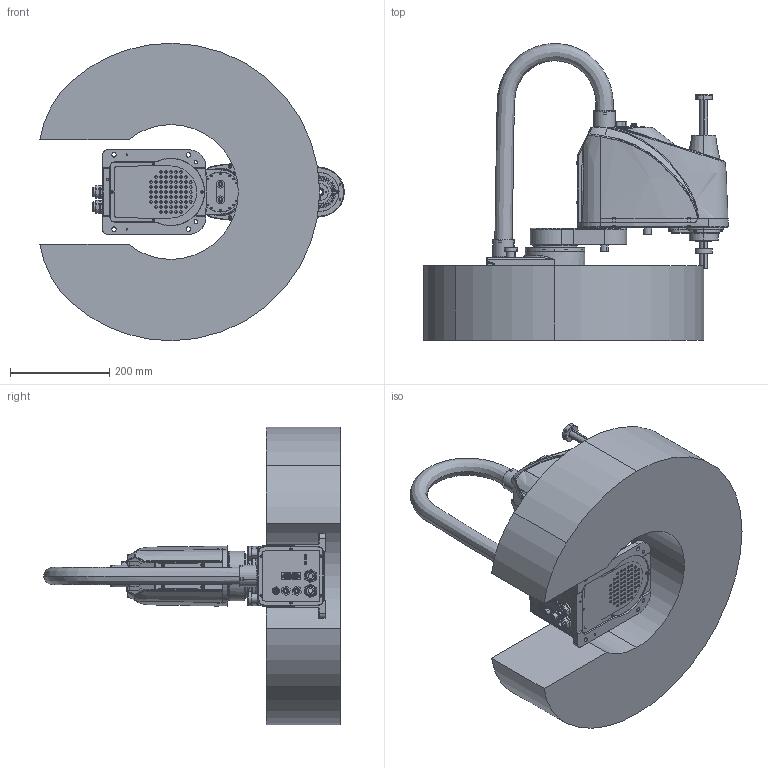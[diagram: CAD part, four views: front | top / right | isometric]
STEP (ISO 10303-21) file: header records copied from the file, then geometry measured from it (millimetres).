
FILE_DESCRIPTION (( 'STEP AP214' ), '1' );
FILE_NAME ('TRH002-300-150-S可拖动机器人（SW2023）.STEP', '2025-01-15T07:31:39', ( 'Windows User' ), ( 'P R C' ), 'SwSTEP 2.0', 'SolidWorks 2023', '' );
FILE_SCHEMA (( 'AUTOMOTIVE_DESIGN' ));
Length unit declared in the file: millimetre
Products named in the file (7): TRH002-300-150-S可拖动机器人（SW2023）; 300S_4^TRH002-300-150-S可拖动机器人（SW2023）; 300S_1_TRH002-300-150-s可拖动机器人（SW2023）; 复件 TRH002_Space^TRH002-300-150-S可拖动机器人（SW2023）; 300S_3^TRH002-300-150-S可拖动机器人（SW2023）; 300S_5^TRH002-300-150-S可拖动机器人（SW2023）; 300S_2^TRH002-300-150-S可拖动机器人（SW2023）
Assembly tree (6 placements, depth 2):
  TRH002-300-150-S可拖动机器人（SW2023）
    300S_1_TRH002-300-150-s可拖动机器人（SW2023）
    300S_2^TRH002-300-150-S可拖动机器人（SW2023）
    300S_3^TRH002-300-150-S可拖动机器人（SW2023）
    300S_4^TRH002-300-150-S可拖动机器人（SW2023）
    300S_5^TRH002-300-150-S可拖动机器人（SW2023）
    复件 TRH002_Space^TRH002-300-150-S可拖动机器人（SW2023）
Bounding box: 614.02 x 598.95 x 600 mm (x, y, z)
Volume: 29409216.4 mm3; surface area: 1673617.5 mm2
Topology: 24 solids, 164 shells, 2937 faces, 7945 edges, 5170 vertices
Faces by surface type: cylinder 1186, plane 1012, cone 380, torus 171, bspline 170, sphere 18
Entity records: 118280 total; most frequent: CARTESIAN_POINT 43658, DIRECTION 16117, ORIENTED_EDGE 14284, EDGE_CURVE 7816, AXIS2_PLACEMENT_3D 6250, VERTEX_POINT 5170, EDGE_LOOP 3665, LINE 3617
